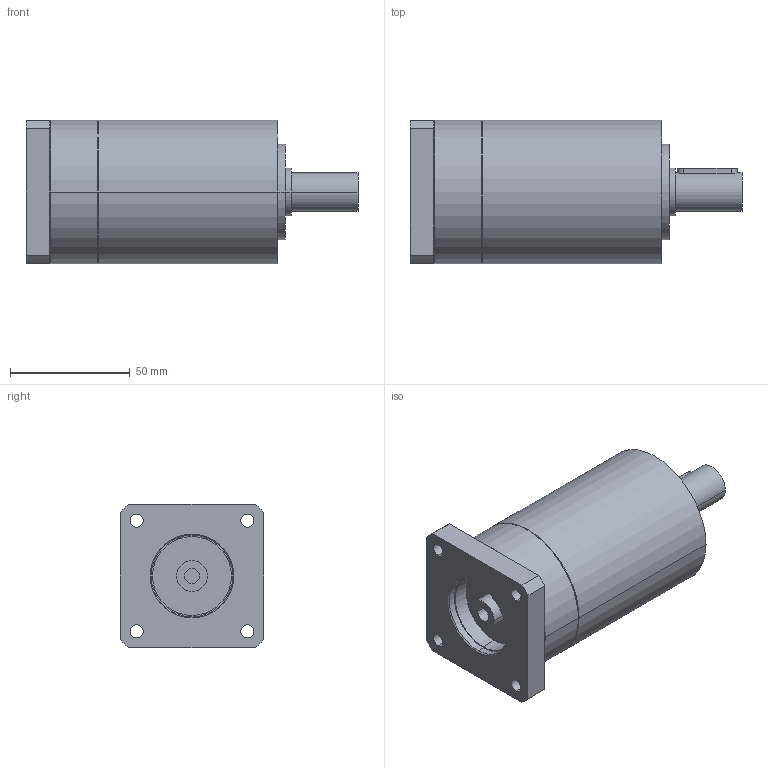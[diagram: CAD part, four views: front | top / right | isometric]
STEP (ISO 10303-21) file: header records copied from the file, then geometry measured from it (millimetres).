
FILE_DESCRIPTION(('CoCreate Modeling STEP Export'),'2;1');
FILE_NAME('GPR75_ig-9-12-16-20-24-30-36_16_B14_6.35_P26.stp','2014-08-25T16:04:17',(''),(''),'CoCreate Modeling STEP processor for AP214 (Solid Model)','CoCreate Modeling 16.00C 25-Feb-2009 (C) Parametric Technology GmbH','');
FILE_SCHEMA(('AUTOMOTIVE_DESIGN { 1 0 10303 214 1 1 1 1 }'));
Length unit declared in the file: millimetre
Products named in the file (2): GPR75_ig-9-12-16-20-24-30-36_16_B14_6.35_P26
Assembly tree (1 placements, depth 2):
  GPR75_ig-9-12-16-20-24-30-36_16_B14_6.35_P26
    GPR75_ig-9-12-16-20-24-30-36_16_B14_6.35_P26
Bounding box: 138.9 x 60 x 60 mm (x, y, z)
Volume: 304615.3 mm3; surface area: 32946.4 mm2
Topology: 1 solids, 1 shells, 88 faces, 227 edges, 153 vertices
Faces by surface type: cylinder 50, plane 30, cone 8
Entity records: 2312 total; most frequent: ORIENTED_EDGE 450, CARTESIAN_POINT 415, DIRECTION 320, EDGE_CURVE 225, VERTEX_POINT 153, AXIS2_PLACEMENT_3D 122, EDGE_LOOP 110, FACE_OUTER_BOUND 88
